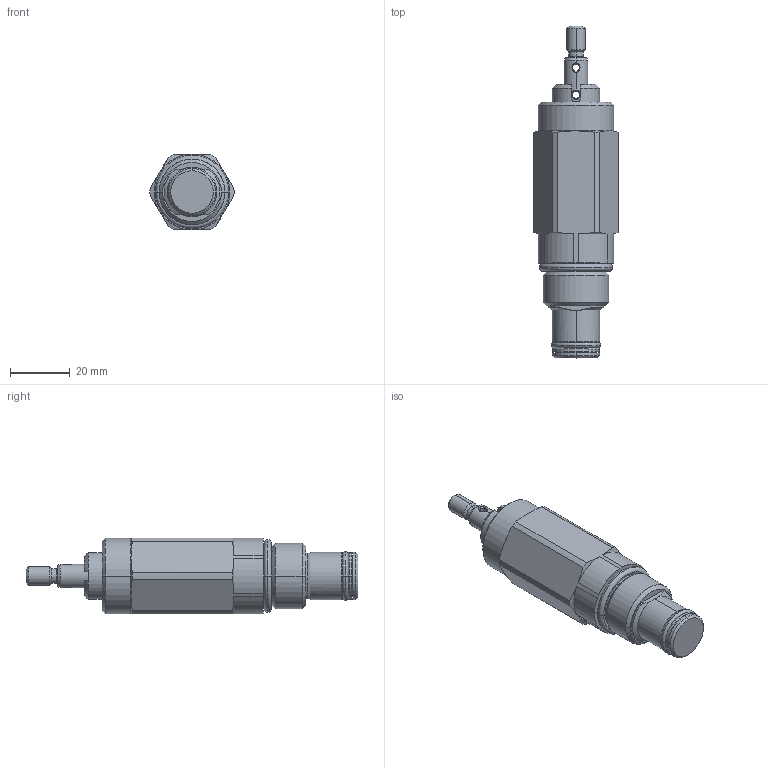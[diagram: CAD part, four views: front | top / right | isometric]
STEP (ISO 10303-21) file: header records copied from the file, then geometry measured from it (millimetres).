
FILE_DESCRIPTION((''),'2;1');
FILE_NAME('5271505_SW0004','2009-02-04T',('jcs'),(''),'PRO/ENGINEER BY PARAMETRIC TECHNOLOGY CORPORATION, 2008010','PRO/ENGINEER BY PARAMETRIC TECHNOLOGY CORPORATION, 2008010','');
FILE_SCHEMA(('CONFIG_CONTROL_DESIGN'));
Length unit declared in the file: inch
Products named in the file (1): 5271505_SW0004
Bounding box: 28.19 x 111.35 x 25.36 mm (x, y, z)
Volume: 38903.7 mm3; surface area: 9942.5 mm2
Topology: 3 solids, 4 shells, 153 faces, 370 edges, 224 vertices
Faces by surface type: cylinder 48, cone 38, plane 35, torus 16, revolution 16
Entity records: 5176 total; most frequent: CARTESIAN_POINT 1555, DIRECTION 766, ORIENTED_EDGE 740, EDGE_CURVE 370, AXIS2_PLACEMENT_3D 311, VERTEX_POINT 224, CIRCLE 174, EDGE_LOOP 160
